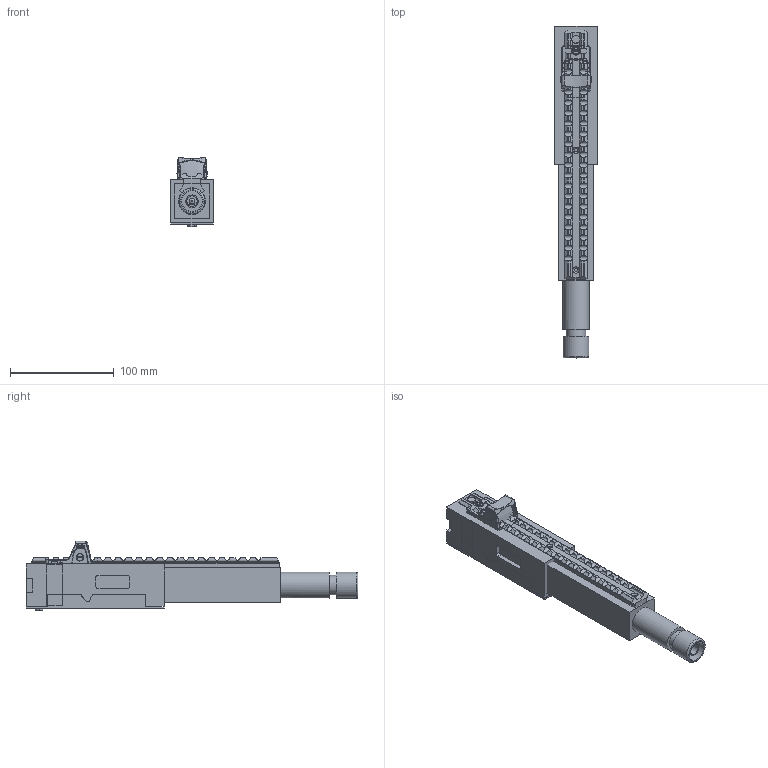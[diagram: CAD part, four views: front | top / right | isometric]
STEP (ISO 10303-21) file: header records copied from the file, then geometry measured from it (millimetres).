
FILE_DESCRIPTION(/* description */ (''),/* implementation_level */ '2;1');
FILE_NAME(/* name */ 'D:/CAD Projects/mkCarbon/Beta V1.1/STEP/JIG DBMkCarbon.step',/* time_stamp */ '2022-05-18T14:12:38-07:00',/* author */ (''),/* organization */ (''),/* preprocessor_version */ 'ST-DEVELOPER v18.1',/* originating_system */ 'Autodesk Translation Framework v10.14.0.1471',/* authorisation */ '');
FILE_SCHEMA (('AUTOMOTIVE_DESIGN { 1 0 10303 214 3 1 1 }'));
Products named in the file (6): JIG DBMkCarbon; Barrel-Plug; Muzzle Plug (1); Short Rail; Long Rail; RMR
Assembly tree (5 placements, depth 2):
  JIG DBMkCarbon
    Barrel-Plug
    Muzzle Plug (1)
    Short Rail
    Long Rail
    RMR
Bounding box: 41 x 319.8 x 66.7 mm (x, y, z)
Volume: 550934.4 mm3; surface area: 219197.7 mm2
Topology: 14 solids, 15 shells, 2129 faces, 5719 edges, 3707 vertices
Faces by surface type: plane 896, cylinder 582, bspline 565, torus 45, sphere 22, cone 19
Full cylindrical faces by diameter (mm): 2.9 x1, 3 x9, 3.5 x12, 4 x7, 5.5 x1, 5.537 x2, 6 x9, 6.2 x2, 6.5 x2, 7 x2, 7.15 x2, 7.85 x2, 10.2 x1, 10.3 x1, 12.1 x1, 18.6 x1, 18.8 x1, 18.85 x1, 19.05 x1, 20 x1, 25 x1, 25.4 x1, 25.7 x4
Entity records: 99478 total; most frequent: CARTESIAN_POINT 49618, ORIENTED_EDGE 11414, DIRECTION 8704, EDGE_CURVE 5707, VERTEX_POINT 3707, AXIS2_PLACEMENT_3D 2925, LINE 2854, VECTOR 2854
